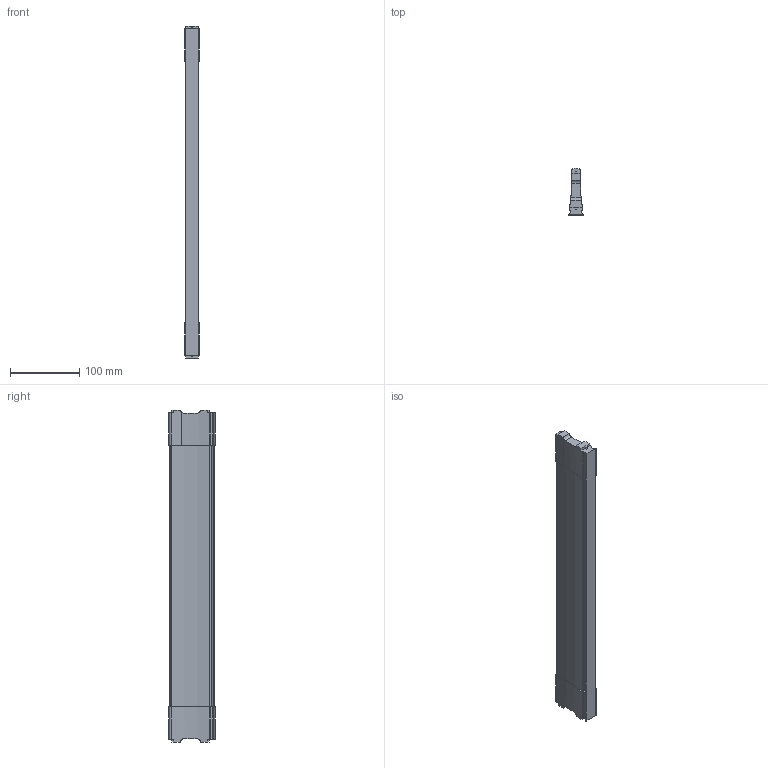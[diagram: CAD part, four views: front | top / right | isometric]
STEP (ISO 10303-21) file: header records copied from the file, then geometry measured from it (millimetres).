
FILE_DESCRIPTION (( 'STEP AP214' ), '1' );
FILE_NAME ('Traverse NOVAPro NL500 Mass X475,4_montiert.step', '2010-09-21T13:16:59', ( 'grass' ), ( '' ), 'SwSTEP 2.0', 'SolidWorks 2010', '' );
FILE_SCHEMA (( 'AUTOMOTIVE_DESIGN' ));
Length unit declared in the file: millimetre
Products named in the file (1): Traverse NOVAPro NL500 Mass X475,4_montiert
Bounding box: 21.4 x 67.5 x 481 mm (x, y, z)
Volume: 401804.2 mm3; surface area: 83933.1 mm2
Topology: 1 solids, 1 shells, 125 faces, 369 edges, 246 vertices
Faces by surface type: cylinder 68, plane 57
Entity records: 4377 total; most frequent: CARTESIAN_POINT 879, DIRECTION 753, ORIENTED_EDGE 738, EDGE_CURVE 369, AXIS2_PLACEMENT_3D 268, VERTEX_POINT 246, LINE 217, VECTOR 217
